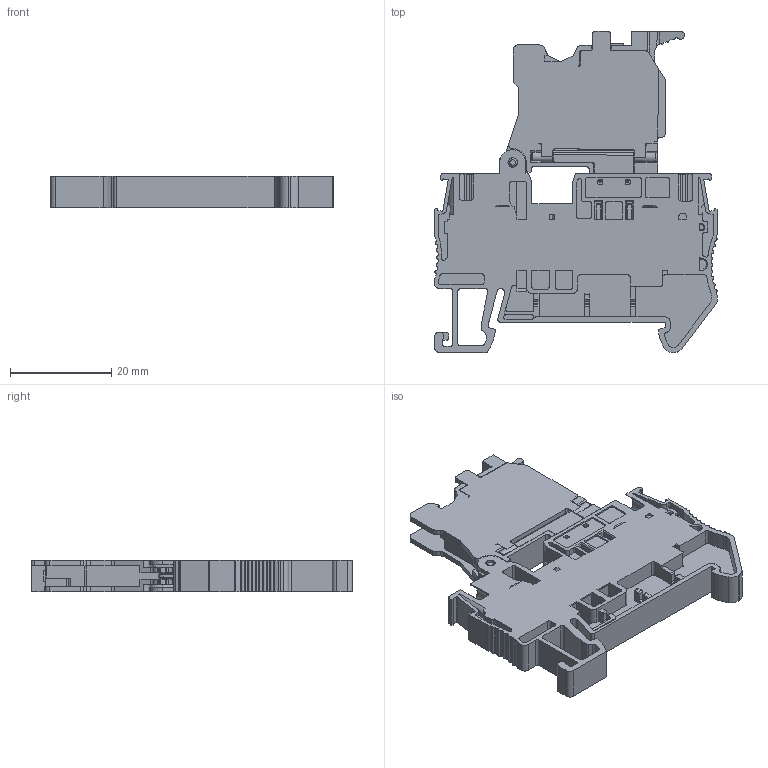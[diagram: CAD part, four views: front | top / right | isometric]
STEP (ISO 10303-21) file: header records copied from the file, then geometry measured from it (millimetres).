
FILE_DESCRIPTION(/* description */ (''),/* implementation_level */ '2;1');
FILE_NAME(/* name */ 'UPT-4RD-LED60 ASSY.stp',/* time_stamp */ '2024-04-26T16:27:09+08:00',/* author */ (''),/* organization */ (''),/* preprocessor_version */ 'ST-DEVELOPER v16.7',/* originating_system */ 'SIEMENS PLM Software NX 12.0',/* authorisation */ '');
FILE_SCHEMA (('AUTOMOTIVE_DESIGN { 1 0 10303 214 3 1 1 1 }'));
Products named in the file (1): Admi0EB4BAB8iy9a
Bounding box: 55.8 x 63.35 x 6.2 mm (x, y, z)
Volume: 9947.2 mm3; surface area: 12227.7 mm2
Topology: 2 solids, 18 shells, 3028 faces, 8555 edges, 5633 vertices
Faces by surface type: plane 2133, cylinder 745, cone 108, torus 24, bspline 17, extrusion 1
Entity records: 99274 total; most frequent: CARTESIAN_POINT 18420, ORIENTED_EDGE 17080, DIRECTION 16019, EDGE_CURVE 8540, VECTOR 6697, LINE 6696, VERTEX_POINT 5630, AXIS2_PLACEMENT_3D 4661
